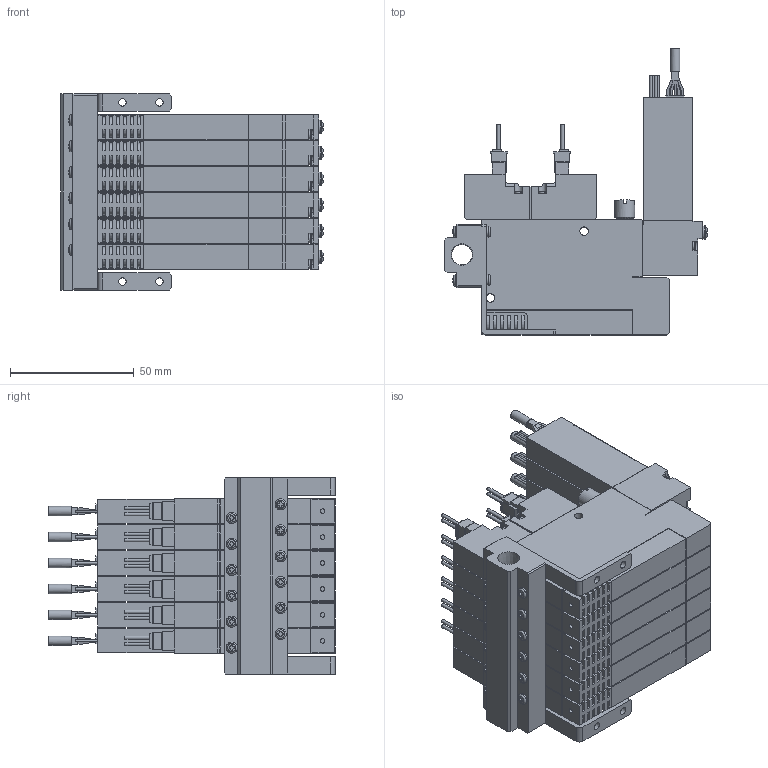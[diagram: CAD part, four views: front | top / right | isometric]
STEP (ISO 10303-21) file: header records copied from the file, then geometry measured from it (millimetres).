
FILE_DESCRIPTION(('STEP AP203'),'1');
FILE_NAME('5SS606_3D.stp','2024-09-04T23:11:06',(' '),(' '),'Spatial InterOp 3D',' ',' ');
FILE_SCHEMA(('CONFIG_CONTROL_DESIGN'));
Length unit declared in the file: millimetre
Products named in the file (5): BSC1M※※10※5SS606; Solenoid valve S; Pressure Sensor 10; Unit-S; BaseMS60R
Assembly tree (19 placements, depth 2):
  BSC1M※※10※5SS606
    Solenoid valve S  x6
    Pressure Sensor 10  x6
    Unit-S  x6
    BaseMS60R
Bounding box: 106.35 x 115.8 x 79.5 mm (x, y, z)
Volume: 350090.3 mm3; surface area: 139164.9 mm2
Topology: 19 solids, 19 shells, 3191 faces, 8733 edges, 5782 vertices
Faces by surface type: plane 2368, cylinder 723, sphere 34, torus 34, cone 32
Full cylindrical faces by diameter (mm): 0.9 x24, 1.4 x24, 1.8 x6, 2.5 x12, 3 x28, 3.5 x48, 3.8 x6, 4 x6, 4.134 x12, 4.5 x16, 5.5 x12, 7 x6, 7.7 x6, 8 x6, 8.422 x1
Entity records: 24402 total; most frequent: CARTESIAN_POINT 5382, DIRECTION 3812, ORIENTED_EDGE 3768, EDGE_CURVE 1884, LINE 1316, VECTOR 1316, VERTEX_POINT 1306, AXIS2_PLACEMENT_3D 1248
